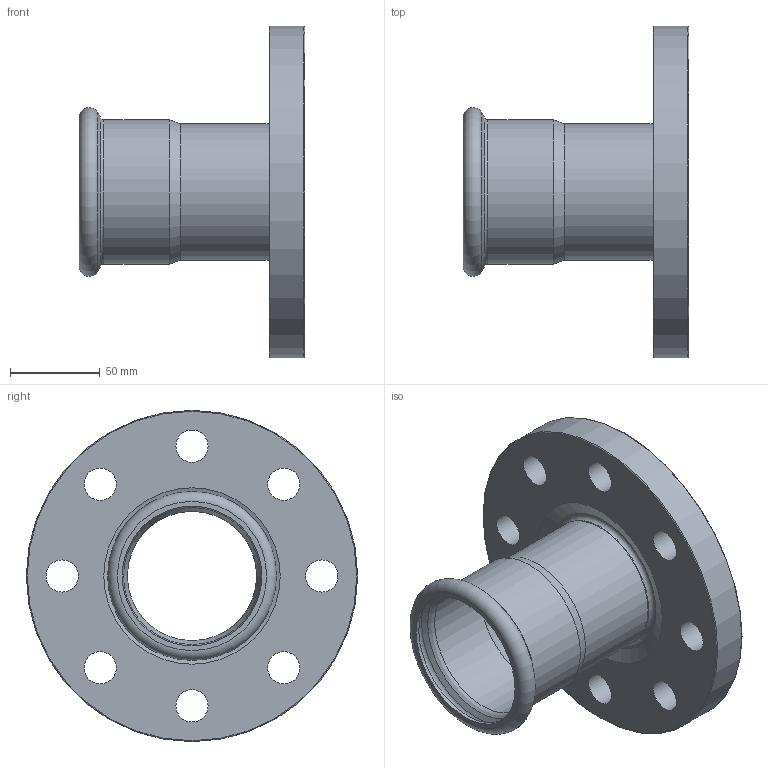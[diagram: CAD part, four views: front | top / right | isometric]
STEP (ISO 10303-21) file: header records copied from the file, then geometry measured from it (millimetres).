
FILE_DESCRIPTION((''),'2;1');
FILE_NAME('G:\Nirosan-Schmiedefeld\Technics\CAD\001 Serie 9.000\076\6VAPF76h(6).stp','2017-02-27T14:00:11',('herberg'),(''),'Autodesk Inventor 2009','Autodesk Inventor 2009','');
FILE_SCHEMA(('AUTOMOTIVE_DESIGN { 1 0 10303 214 1 1 1 1 }'));
Length unit declared in the file: millimetre
Products named in the file (3): 6VAPF76h(6); 69HMF76p(0); 69FL76145p(2)
Assembly tree (2 placements, depth 2):
  6VAPF76h(6)
    69HMF76p(0)
    69FL76145p(2)
Bounding box: 126 x 185 x 185 mm (x, y, z)
Volume: 464152.7 mm3; surface area: 123330.9 mm2
Topology: 2 solids, 2 shells, 35 faces, 73 edges, 44 vertices
Faces by surface type: cylinder 16, plane 6, cone 6, torus 5, bspline 2
Full cylindrical faces by diameter (mm): 18 x8, 72.1 x2, 76.1 x2, 76.6 x1, 78 x1, 80.6 x1, 185 x1
Entity records: 986 total; most frequent: CARTESIAN_POINT 214, DIRECTION 162, ORIENTED_EDGE 86, EDGE_LOOP 86, AXIS2_PLACEMENT_3D 81, FACE_BOUND 51, VERTEX_POINT 43, CIRCLE 43
